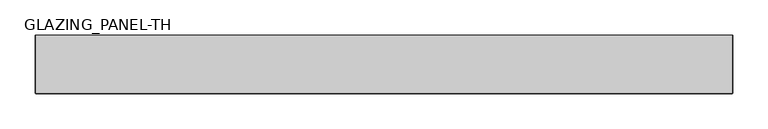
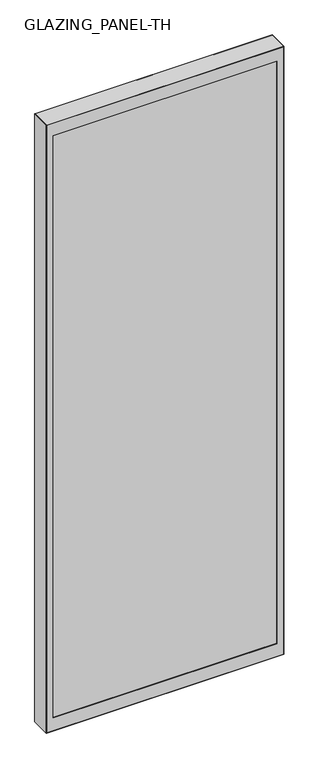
"""IFC4 building model written with IfcOpenShell, lengths in millimetres: plate geometry, GLAZING_PANEL-TH : 85-MVDVAL."""

from ifc_helpers import new_model, si_unit, frame, origin, origin_with_axes, place, context, project, spatial, polyline, outline, extrude, source, transform, mapped, element, save


def glazing_panel_th_78c15b61(model_context):
    return source(origin(), model_context, "Body", "SweptSolid", [
        extrude(outline(polyline([(478.2, 37.5), (478.2, 31.5), (-478.2, 31.5), (-478.2, 37.5), (478.2, 37.5)])), frame((0.0, 0.0, 46.8), z_axis=(0.0, 0.0, 1.0), x_axis=(1.0, 0.0, 0.0)), (0.0, 0.0, 1.0), 2591.4),
        extrude(outline(polyline([(478.2, -29.5), (478.2, -37.5), (-478.2, -37.5), (-478.2, -29.5), (478.2, -29.5)])), frame((0.0, 0.0, 46.8), z_axis=(0.0, 0.0, 1.0), x_axis=(1.0, 0.0, 0.0)), (0.0, 0.0, 1.0), 2591.4),
        extrude(outline(polyline([(2638.2, -478.2), (46.8, -478.2), (46.8, 478.2), (2638.2, 478.2), (2638.2, -478.2)]), holes=[polyline([(2628.2, 468.2), (56.8, 468.2), (56.8, -468.2), (2628.2, -468.2), (2628.2, 468.2)])]), frame((0.0, -39.5, 0.0), z_axis=(0.0, 1.0, 0.0), x_axis=(0.0, 0.0, 1.0)), (0.0, 0.0, 1.0), 2.0),
        extrude(outline(polyline([(2638.2, -478.2), (46.8, -478.2), (46.8, 478.2), (2638.2, 478.2), (2638.2, -478.2)]), holes=[polyline([(2628.2, 468.2), (56.8, 468.2), (56.8, -468.2), (2628.2, -468.2), (2628.2, 468.2)])]), frame((0.0, -29.5, 0.0), z_axis=(0.0, 1.0, 0.0), x_axis=(0.0, 0.0, 1.0)), (0.0, 0.0, 1.0), 2.0),
        extrude(outline(polyline([(2638.2, -478.2), (46.8, -478.2), (46.8, 478.2), (2638.2, 478.2), (2638.2, -478.2)]), holes=[polyline([(2628.2, 468.2), (56.8, 468.2), (56.8, -468.2), (2628.2, -468.2), (2628.2, 468.2)])]), frame((0.0, 29.5, 0.0), z_axis=(0.0, 1.0, 0.0), x_axis=(0.0, 0.0, 1.0)), (0.0, 0.0, 1.0), 2.0),
        extrude(outline(polyline([(2638.2, -478.2), (46.8, -478.2), (46.8, 478.2), (2638.2, 478.2), (2638.2, -478.2)]), holes=[polyline([(2628.2, 468.2), (56.8, 468.2), (56.8, -468.2), (2628.2, -468.2), (2628.2, 468.2)])]), frame((0.0, 37.5, 0.0), z_axis=(0.0, 1.0, 0.0), x_axis=(0.0, 0.0, 1.0)), (0.0, 0.0, 1.0), 2.0),
        extrude(outline(polyline([(2684.2, -496.2), (0.8, -496.2), (0.8, 496.2), (2684.2, 496.2), (2684.2, -496.2)]), holes=[polyline([(2628.2, 468.2), (56.8, 468.2), (56.8, -468.2), (2628.2, -468.2), (2628.2, 468.2)])]), frame((0.0, -41.5, 0.0), z_axis=(0.0, 1.0, 0.0), x_axis=(0.0, 0.0, 1.0)), (0.0, 0.0, 1.0), 2.0),
        extrude(outline(polyline([(2684.2, -496.2), (0.8, -496.2), (0.8, 496.2), (2684.2, 496.2), (2684.2, -496.2)]), holes=[polyline([(2628.2, 468.2), (56.8, 468.2), (56.8, -468.2), (2628.2, -468.2), (2628.2, 468.2)])]), frame((0.0, -27.5, 0.0), z_axis=(0.0, 1.0, 0.0), x_axis=(0.0, 0.0, 1.0)), (0.0, 0.0, 1.0), 57.0),
        extrude(outline(polyline([(2684.2, -496.2), (0.8, -496.2), (0.8, 496.2), (2684.2, 496.2), (2684.2, -496.2)]), holes=[polyline([(2628.2, 468.2), (56.8, 468.2), (56.8, -468.2), (2628.2, -468.2), (2628.2, 468.2)])]), frame((0.0, 39.5, 0.0), z_axis=(0.0, 1.0, 0.0), x_axis=(0.0, 0.0, 1.0)), (0.0, 0.0, 1.0), 2.0),
        extrude(outline(polyline([(496.2, -41.5), (-496.2, -41.5), (-496.2, 41.5), (496.2, 41.5), (496.2, -41.5)])), frame((0.0, 0.0, 2684.2), z_axis=(0.0, 0.0, 1.0), x_axis=(1.0, 0.0, 0.0)), (0.0, 0.0, 1.0), 0.8),
        extrude(outline(polyline([(496.2, -41.5), (-496.2, -41.5), (-496.2, 41.5), (496.2, 41.5), (496.2, -41.5)])), origin_with_axes(), (0.0, 0.0, 1.0), 0.8),
        extrude(outline(polyline([(-496.2, 41.5), (-496.2, -41.5), (-497.0, -41.5), (-497.0, 41.5), (-496.2, 41.5)])), origin_with_axes(), (0.0, 0.0, 1.0), 2685.0),
        extrude(outline(polyline([(497.0, 41.5), (497.0, -41.5), (496.2, -41.5), (496.2, 41.5), (497.0, 41.5)])), origin_with_axes(), (0.0, 0.0, 1.0), 2685.0),
    ])


if __name__ == "__main__":
    model = new_model("IFC4")
    model_context = context("Model", 3, world=origin())
    ifc_project = project(units=[si_unit("LENGTHUNIT", "METRE", prefix="MILLI")], contexts=[model_context])
    site = spatial("IfcSite", under=ifc_project)
    building = spatial("IfcBuilding", under=site)
    placement = place(None, origin())
    glazing_panel_th_shape = glazing_panel_th_78c15b61(model_context)
    element("IfcPlate", 1, ObjectType="GLAZING_PANEL-TH : 85-MVDVAL", at=placement, inside=building, context=model_context, shape_type="MappedRepresentation", body=[
        mapped(glazing_panel_th_shape, transform((0.0, 0.0, 0.0), x_axis=(1.0, 0.0, 0.0), y_axis=(0.0, 1.0, 0.0), z_axis=(0.0, 0.0, 1.0))),
    ])
    save(model, "model.ifc")
